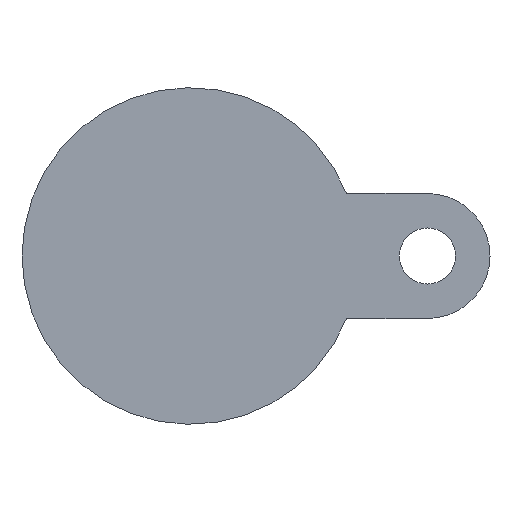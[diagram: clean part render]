
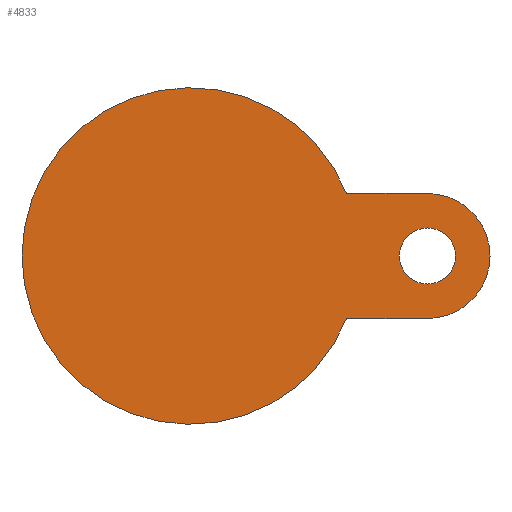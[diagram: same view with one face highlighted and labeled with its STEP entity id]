
A CAD part, front view. The second image highlights one B-rep face of the part: STEP entity #4833.
In plain terms, the highlighted planar face has unit normal (0, -1, 0).
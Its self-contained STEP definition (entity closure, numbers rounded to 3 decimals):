
#1 = CARTESIAN_POINT ( 'NONE',  ( 42.597, -25., 19.5 ) ) ;
#110 = CIRCLE ( 'NONE', #2406, 52.5 ) ;
#156 = DIRECTION ( 'NONE',  ( -1., 0., 0. ) ) ;
#221 = ORIENTED_EDGE ( 'NONE', *, *, #1350, .F. ) ;
#234 = CARTESIAN_POINT ( 'NONE',  ( 74., -25., -19.5 ) ) ;
#245 = CARTESIAN_POINT ( 'NONE',  ( 48.744, -25., 19.5 ) ) ;
#286 = ORIENTED_EDGE ( 'NONE', *, *, #2834, .T. ) ;
#563 = VERTEX_POINT ( 'NONE', #245 ) ;
#697 = CIRCLE ( 'NONE', #796, 8.75 ) ;
#718 = EDGE_LOOP ( 'NONE', ( #2002, #221 ) ) ;
#720 = VECTOR ( 'NONE', #5354, 1000. ) ;
#728 = CARTESIAN_POINT ( 'NONE',  ( -52.5, -25., 0. ) ) ;
#739 = DIRECTION ( 'NONE',  ( 1., 0., 0. ) ) ;
#759 = EDGE_CURVE ( 'NONE', #5018, #2497, #2393, .T. ) ;
#789 = DIRECTION ( 'NONE',  ( 0., 1., 0. ) ) ;
#796 = AXIS2_PLACEMENT_3D ( 'NONE', #1580, #3680, #739 ) ;
#913 = EDGE_LOOP ( 'NONE', ( #1291, #3219, #3273, #4851, #286, #1943 ) ) ;
#950 = VERTEX_POINT ( 'NONE', #4614 ) ;
#1161 = DIRECTION ( 'NONE',  ( -1., 0., 0. ) ) ;
#1202 = VERTEX_POINT ( 'NONE', #728 ) ;
#1211 = CARTESIAN_POINT ( 'NONE',  ( 0., -25., 0. ) ) ;
#1291 = ORIENTED_EDGE ( 'NONE', *, *, #1351, .T. ) ;
#1350 = EDGE_CURVE ( 'NONE', #5240, #4960, #697, .T. ) ;
#1351 = EDGE_CURVE ( 'NONE', #2497, #563, #5369, .T. ) ;
#1355 = CARTESIAN_POINT ( 'NONE',  ( 0., -25., 0. ) ) ;
#1462 = CARTESIAN_POINT ( 'NONE',  ( 93.5, -25., 0. ) ) ;
#1488 = CARTESIAN_POINT ( 'NONE',  ( 74., -25., 0. ) ) ;
#1563 = DIRECTION ( 'NONE',  ( 1., 0., 0. ) ) ;
#1580 = CARTESIAN_POINT ( 'NONE',  ( 74., -25., 0. ) ) ;
#1595 = VECTOR ( 'NONE', #1161, 1000. ) ;
#1827 = FACE_OUTER_BOUND ( 'NONE', #913, .T. ) ;
#1850 = PLANE ( 'NONE',  #2324 ) ;
#1943 = ORIENTED_EDGE ( 'NONE', *, *, #759, .T. ) ;
#2002 = ORIENTED_EDGE ( 'NONE', *, *, #4082, .F. ) ;
#2308 = CIRCLE ( 'NONE', #4878, 19.5 ) ;
#2314 = DIRECTION ( 'NONE',  ( 0., -1., 0. ) ) ;
#2324 = AXIS2_PLACEMENT_3D ( 'NONE', #1355, #4705, #3047 ) ;
#2337 = LINE ( 'NONE', #234, #720 ) ;
#2360 = DIRECTION ( 'NONE',  ( 0., -1., 0. ) ) ;
#2393 = CIRCLE ( 'NONE', #2930, 19.5 ) ;
#2406 = AXIS2_PLACEMENT_3D ( 'NONE', #1211, #789, #2479 ) ;
#2409 = AXIS2_PLACEMENT_3D ( 'NONE', #4136, #2360, #1563 ) ;
#2479 = DIRECTION ( 'NONE',  ( -1., 0., 0. ) ) ;
#2497 = VERTEX_POINT ( 'NONE', #3118 ) ;
#2678 = CIRCLE ( 'NONE', #4707, 52.5 ) ;
#2690 = DIRECTION ( 'NONE',  ( 1., 0., 0. ) ) ;
#2834 = EDGE_CURVE ( 'NONE', #950, #5018, #2308, .T. ) ;
#2841 = CARTESIAN_POINT ( 'NONE',  ( 82.75, -25., 0. ) ) ;
#2930 = AXIS2_PLACEMENT_3D ( 'NONE', #1488, #2314, #4030 ) ;
#3047 = DIRECTION ( 'NONE',  ( 1., 0., 0. ) ) ;
#3097 = CARTESIAN_POINT ( 'NONE',  ( 48.744, -25., -19.5 ) ) ;
#3118 = CARTESIAN_POINT ( 'NONE',  ( 74., -25., 19.5 ) ) ;
#3209 = EDGE_CURVE ( 'NONE', #4906, #1202, #110, .T. ) ;
#3219 = ORIENTED_EDGE ( 'NONE', *, *, #3345, .F. ) ;
#3273 = ORIENTED_EDGE ( 'NONE', *, *, #3209, .F. ) ;
#3345 = EDGE_CURVE ( 'NONE', #1202, #563, #2678, .T. ) ;
#3374 = CARTESIAN_POINT ( 'NONE',  ( 65.25, -25., 0. ) ) ;
#3518 = CARTESIAN_POINT ( 'NONE',  ( 74., -25., 0. ) ) ;
#3530 = EDGE_CURVE ( 'NONE', #4906, #950, #2337, .T. ) ;
#3680 = DIRECTION ( 'NONE',  ( 0., -1., 0. ) ) ;
#3895 = CARTESIAN_POINT ( 'NONE',  ( 0., -25., 0. ) ) ;
#3927 = DIRECTION ( 'NONE',  ( 0., 1., 0. ) ) ;
#3928 = FACE_BOUND ( 'NONE', #718, .T. ) ;
#4030 = DIRECTION ( 'NONE',  ( 1., 0., 0. ) ) ;
#4082 = EDGE_CURVE ( 'NONE', #4960, #5240, #4449, .T. ) ;
#4136 = CARTESIAN_POINT ( 'NONE',  ( 74., -25., 0. ) ) ;
#4449 = CIRCLE ( 'NONE', #2409, 8.75 ) ;
#4614 = CARTESIAN_POINT ( 'NONE',  ( 74., -25., -19.5 ) ) ;
#4705 = DIRECTION ( 'NONE',  ( 0., -1., 0. ) ) ;
#4707 = AXIS2_PLACEMENT_3D ( 'NONE', #3895, #3927, #156 ) ;
#4833 = ADVANCED_FACE ( 'NONE', ( #1827, #3928 ), #1850, .T. ) ;
#4851 = ORIENTED_EDGE ( 'NONE', *, *, #3530, .T. ) ;
#4878 = AXIS2_PLACEMENT_3D ( 'NONE', #3518, #5208, #2690 ) ;
#4906 = VERTEX_POINT ( 'NONE', #3097 ) ;
#4960 = VERTEX_POINT ( 'NONE', #2841 ) ;
#5018 = VERTEX_POINT ( 'NONE', #1462 ) ;
#5208 = DIRECTION ( 'NONE',  ( 0., -1., 0. ) ) ;
#5240 = VERTEX_POINT ( 'NONE', #3374 ) ;
#5354 = DIRECTION ( 'NONE',  ( 1., 0., 0. ) ) ;
#5369 = LINE ( 'NONE', #1, #1595 ) ;
